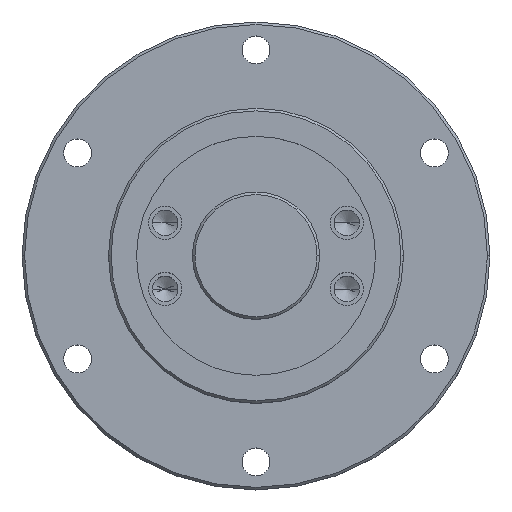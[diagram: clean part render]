
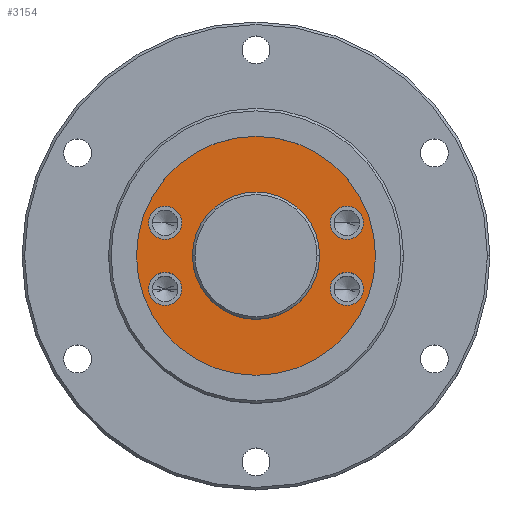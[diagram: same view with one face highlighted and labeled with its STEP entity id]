
A CAD part, top view. The second image highlights one B-rep face of the part: STEP entity #3154.
In plain terms, the highlighted planar face has unit normal (0, 0, 1).
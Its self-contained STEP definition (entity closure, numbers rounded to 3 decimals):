
#121 = DIRECTION ( 'NONE',  ( 1., 0., 0. ) ) ;
#135 = AXIS2_PLACEMENT_3D ( 'NONE', #1085, #4887, #5330 ) ;
#179 = EDGE_LOOP ( 'NONE', ( #3516, #4480 ) ) ;
#221 = CARTESIAN_POINT ( 'NONE',  ( -21.104, 6.498, 0. ) ) ;
#253 = AXIS2_PLACEMENT_3D ( 'NONE', #2693, #4300, #4807 ) ;
#255 = FACE_BOUND ( 'NONE', #1688, .T. ) ;
#357 = CARTESIAN_POINT ( 'NONE',  ( -21.104, -6.498, 0. ) ) ;
#401 = ORIENTED_EDGE ( 'NONE', *, *, #2769, .F. ) ;
#413 = AXIS2_PLACEMENT_3D ( 'NONE', #580, #4042, #3736 ) ;
#498 = AXIS2_PLACEMENT_3D ( 'NONE', #4408, #5278, #121 ) ;
#525 = CIRCLE ( 'NONE', #3735, 12.5 ) ;
#529 = CARTESIAN_POINT ( 'NONE',  ( 12.5, 0., 0. ) ) ;
#552 = EDGE_CURVE ( 'NONE', #2440, #933, #1198, .T. ) ;
#580 = CARTESIAN_POINT ( 'NONE',  ( -17.854, -6.498, 0. ) ) ;
#607 = AXIS2_PLACEMENT_3D ( 'NONE', #2278, #2623, #927 ) ;
#636 = VERTEX_POINT ( 'NONE', #1559 ) ;
#771 = CIRCLE ( 'NONE', #1579, 3.25 ) ;
#810 = DIRECTION ( 'NONE',  ( 0., 0., -1. ) ) ;
#927 = DIRECTION ( 'NONE',  ( 1., 0., 0. ) ) ;
#933 = VERTEX_POINT ( 'NONE', #529 ) ;
#981 = CARTESIAN_POINT ( 'NONE',  ( 0., 0., 0. ) ) ;
#1075 = FACE_BOUND ( 'NONE', #1347, .T. ) ;
#1085 = CARTESIAN_POINT ( 'NONE',  ( 17.854, -6.498, 0. ) ) ;
#1178 = VERTEX_POINT ( 'NONE', #3734 ) ;
#1198 = CIRCLE ( 'NONE', #3691, 12.5 ) ;
#1271 = ORIENTED_EDGE ( 'NONE', *, *, #1660, .F. ) ;
#1307 = EDGE_CURVE ( 'NONE', #4140, #1411, #4324, .T. ) ;
#1347 = EDGE_LOOP ( 'NONE', ( #3179, #2316 ) ) ;
#1377 = CARTESIAN_POINT ( 'NONE',  ( -17.854, -6.498, 0. ) ) ;
#1411 = VERTEX_POINT ( 'NONE', #5085 ) ;
#1454 = VERTEX_POINT ( 'NONE', #357 ) ;
#1456 = CARTESIAN_POINT ( 'NONE',  ( -17.854, 6.498, 0. ) ) ;
#1501 = CIRCLE ( 'NONE', #2491, 3.25 ) ;
#1512 = PLANE ( 'NONE',  #4992 ) ;
#1559 = CARTESIAN_POINT ( 'NONE',  ( 14.604, 6.498, 0. ) ) ;
#1579 = AXIS2_PLACEMENT_3D ( 'NONE', #5463, #5521, #1687 ) ;
#1598 = AXIS2_PLACEMENT_3D ( 'NONE', #1456, #4323, #2209 ) ;
#1660 = EDGE_CURVE ( 'NONE', #636, #5428, #1742, .T. ) ;
#1687 = DIRECTION ( 'NONE',  ( 1., 0., 0. ) ) ;
#1688 = EDGE_LOOP ( 'NONE', ( #401, #5439 ) ) ;
#1723 = EDGE_CURVE ( 'NONE', #1454, #2649, #1833, .T. ) ;
#1742 = CIRCLE ( 'NONE', #498, 3.25 ) ;
#1833 = CIRCLE ( 'NONE', #413, 3.25 ) ;
#1929 = FACE_BOUND ( 'NONE', #4285, .T. ) ;
#1988 = DIRECTION ( 'NONE',  ( -1., 0., 0. ) ) ;
#2029 = CIRCLE ( 'NONE', #135, 3.25 ) ;
#2122 = CIRCLE ( 'NONE', #607, 23.5 ) ;
#2128 = ORIENTED_EDGE ( 'NONE', *, *, #552, .F. ) ;
#2169 = EDGE_CURVE ( 'NONE', #3211, #1178, #2029, .T. ) ;
#2201 = ORIENTED_EDGE ( 'NONE', *, *, #4913, .F. ) ;
#2209 = DIRECTION ( 'NONE',  ( 1., 0., 0. ) ) ;
#2278 = CARTESIAN_POINT ( 'NONE',  ( 0., 0., 0. ) ) ;
#2316 = ORIENTED_EDGE ( 'NONE', *, *, #1723, .F. ) ;
#2409 = CIRCLE ( 'NONE', #253, 3.25 ) ;
#2426 = CARTESIAN_POINT ( 'NONE',  ( -14.604, -6.498, 0. ) ) ;
#2430 = CARTESIAN_POINT ( 'NONE',  ( 0., 0., 0. ) ) ;
#2440 = VERTEX_POINT ( 'NONE', #4825 ) ;
#2487 = ORIENTED_EDGE ( 'NONE', *, *, #4972, .F. ) ;
#2491 = AXIS2_PLACEMENT_3D ( 'NONE', #1377, #3042, #4286 ) ;
#2497 = CARTESIAN_POINT ( 'NONE',  ( 17.854, 6.498, 0. ) ) ;
#2581 = CIRCLE ( 'NONE', #4456, 3.25 ) ;
#2623 = DIRECTION ( 'NONE',  ( 0., 0., 1. ) ) ;
#2649 = VERTEX_POINT ( 'NONE', #2426 ) ;
#2693 = CARTESIAN_POINT ( 'NONE',  ( -17.854, 6.498, 0. ) ) ;
#2698 = DIRECTION ( 'NONE',  ( 0., 0., 1. ) ) ;
#2744 = EDGE_LOOP ( 'NONE', ( #2201, #2487 ) ) ;
#2769 = EDGE_CURVE ( 'NONE', #1178, #3211, #771, .T. ) ;
#2809 = FACE_BOUND ( 'NONE', #4017, .T. ) ;
#3041 = VERTEX_POINT ( 'NONE', #221 ) ;
#3042 = DIRECTION ( 'NONE',  ( 0., 0., 1. ) ) ;
#3148 = ORIENTED_EDGE ( 'NONE', *, *, #5028, .F. ) ;
#3154 = ADVANCED_FACE ( 'NONE', ( #2809, #3637, #1075, #255, #1929, #5347 ), #1512, .F. ) ;
#3179 = ORIENTED_EDGE ( 'NONE', *, *, #3800, .F. ) ;
#3211 = VERTEX_POINT ( 'NONE', #5405 ) ;
#3285 = VERTEX_POINT ( 'NONE', #4993 ) ;
#3317 = DIRECTION ( 'NONE',  ( 0., 0., 1. ) ) ;
#3474 = CIRCLE ( 'NONE', #1598, 3.25 ) ;
#3516 = ORIENTED_EDGE ( 'NONE', *, *, #3826, .T. ) ;
#3589 = CARTESIAN_POINT ( 'NONE',  ( 21.104, 6.498, 0. ) ) ;
#3637 = FACE_BOUND ( 'NONE', #2744, .T. ) ;
#3691 = AXIS2_PLACEMENT_3D ( 'NONE', #981, #2698, #4390 ) ;
#3720 = CARTESIAN_POINT ( 'NONE',  ( -23.5, 0., 0. ) ) ;
#3734 = CARTESIAN_POINT ( 'NONE',  ( 21.104, -6.498, 0. ) ) ;
#3735 = AXIS2_PLACEMENT_3D ( 'NONE', #2430, #3317, #5004 ) ;
#3736 = DIRECTION ( 'NONE',  ( 1., 0., 0. ) ) ;
#3763 = DIRECTION ( 'NONE',  ( 1., 0., 0. ) ) ;
#3800 = EDGE_CURVE ( 'NONE', #2649, #1454, #1501, .T. ) ;
#3826 = EDGE_CURVE ( 'NONE', #1411, #4140, #2122, .T. ) ;
#3982 = ORIENTED_EDGE ( 'NONE', *, *, #4904, .F. ) ;
#4017 = EDGE_LOOP ( 'NONE', ( #3148, #2128 ) ) ;
#4042 = DIRECTION ( 'NONE',  ( 0., 0., 1. ) ) ;
#4044 = DIRECTION ( 'NONE',  ( 0., 0., 1. ) ) ;
#4140 = VERTEX_POINT ( 'NONE', #3720 ) ;
#4188 = DIRECTION ( 'NONE',  ( 0., 0., 1. ) ) ;
#4285 = EDGE_LOOP ( 'NONE', ( #3982, #1271 ) ) ;
#4286 = DIRECTION ( 'NONE',  ( 1., 0., 0. ) ) ;
#4300 = DIRECTION ( 'NONE',  ( 0., 0., 1. ) ) ;
#4323 = DIRECTION ( 'NONE',  ( 0., 0., 1. ) ) ;
#4324 = CIRCLE ( 'NONE', #4592, 23.5 ) ;
#4390 = DIRECTION ( 'NONE',  ( 1., 0., 0. ) ) ;
#4408 = CARTESIAN_POINT ( 'NONE',  ( 17.854, 6.498, 0. ) ) ;
#4456 = AXIS2_PLACEMENT_3D ( 'NONE', #2497, #4188, #3763 ) ;
#4480 = ORIENTED_EDGE ( 'NONE', *, *, #1307, .T. ) ;
#4592 = AXIS2_PLACEMENT_3D ( 'NONE', #5306, #4044, #5285 ) ;
#4807 = DIRECTION ( 'NONE',  ( 1., 0., 0. ) ) ;
#4825 = CARTESIAN_POINT ( 'NONE',  ( -12.5, 0., 0. ) ) ;
#4887 = DIRECTION ( 'NONE',  ( 0., 0., 1. ) ) ;
#4904 = EDGE_CURVE ( 'NONE', #5428, #636, #2581, .T. ) ;
#4913 = EDGE_CURVE ( 'NONE', #3285, #3041, #2409, .T. ) ;
#4954 = CARTESIAN_POINT ( 'NONE',  ( 0., 23.5, 0. ) ) ;
#4972 = EDGE_CURVE ( 'NONE', #3041, #3285, #3474, .T. ) ;
#4992 = AXIS2_PLACEMENT_3D ( 'NONE', #4954, #810, #1988 ) ;
#4993 = CARTESIAN_POINT ( 'NONE',  ( -14.604, 6.498, 0. ) ) ;
#5004 = DIRECTION ( 'NONE',  ( 1., 0., 0. ) ) ;
#5028 = EDGE_CURVE ( 'NONE', #933, #2440, #525, .T. ) ;
#5085 = CARTESIAN_POINT ( 'NONE',  ( 23.5, 0., 0. ) ) ;
#5278 = DIRECTION ( 'NONE',  ( 0., 0., 1. ) ) ;
#5285 = DIRECTION ( 'NONE',  ( 1., 0., 0. ) ) ;
#5306 = CARTESIAN_POINT ( 'NONE',  ( 0., 0., 0. ) ) ;
#5330 = DIRECTION ( 'NONE',  ( 1., 0., 0. ) ) ;
#5347 = FACE_OUTER_BOUND ( 'NONE', #179, .T. ) ;
#5405 = CARTESIAN_POINT ( 'NONE',  ( 14.604, -6.498, 0. ) ) ;
#5428 = VERTEX_POINT ( 'NONE', #3589 ) ;
#5439 = ORIENTED_EDGE ( 'NONE', *, *, #2169, .F. ) ;
#5463 = CARTESIAN_POINT ( 'NONE',  ( 17.854, -6.498, 0. ) ) ;
#5521 = DIRECTION ( 'NONE',  ( 0., 0., 1. ) ) ;
